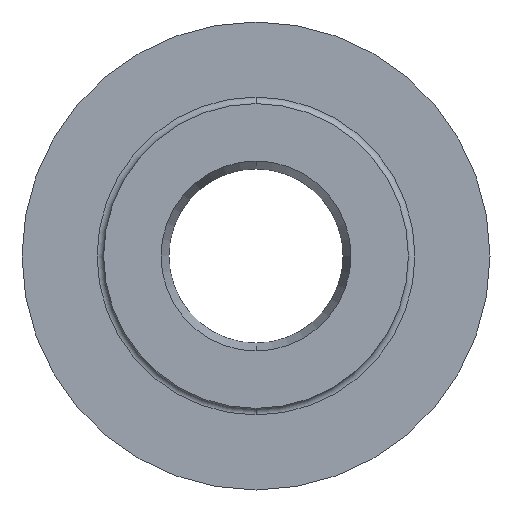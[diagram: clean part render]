
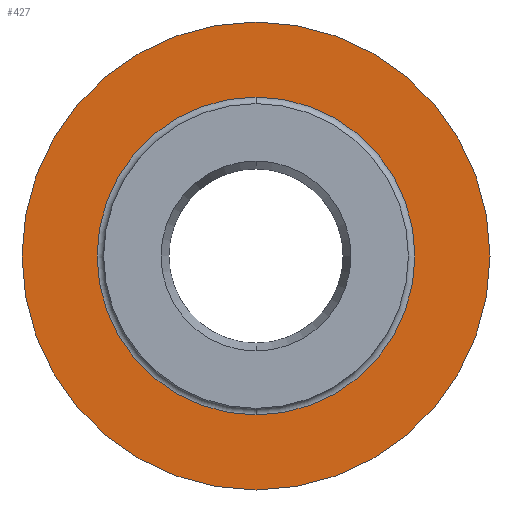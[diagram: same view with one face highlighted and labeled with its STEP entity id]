
A CAD part, front view. The second image highlights one B-rep face of the part: STEP entity #427.
In plain terms, the highlighted planar face has unit normal (0, -1, 0).
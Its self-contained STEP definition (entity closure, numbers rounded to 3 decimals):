
#18 = DIRECTION ( 'NONE',  ( 0., 0., -1. ) ) ;
#52 = CARTESIAN_POINT ( 'NONE',  ( 0., 3., -10.75 ) ) ;
#55 = CARTESIAN_POINT ( 'NONE',  ( 0., 3., -7.3 ) ) ;
#71 = AXIS2_PLACEMENT_3D ( 'NONE', #405, #457, #594 ) ;
#77 = DIRECTION ( 'NONE',  ( 0., 0., -1. ) ) ;
#107 = VERTEX_POINT ( 'NONE', #439 ) ;
#118 = DIRECTION ( 'NONE',  ( 0., -1., 0. ) ) ;
#128 = FACE_OUTER_BOUND ( 'NONE', #358, .T. ) ;
#131 = EDGE_CURVE ( 'NONE', #107, #328, #254, .T. ) ;
#139 = CARTESIAN_POINT ( 'NONE',  ( 0., 3., 0. ) ) ;
#146 = DIRECTION ( 'NONE',  ( 0., 0., -1. ) ) ;
#148 = EDGE_CURVE ( 'NONE', #328, #107, #393, .T. ) ;
#151 = ORIENTED_EDGE ( 'NONE', *, *, #203, .T. ) ;
#158 = ORIENTED_EDGE ( 'NONE', *, *, #148, .T. ) ;
#190 = CIRCLE ( 'NONE', #489, 10.75 ) ;
#203 = EDGE_CURVE ( 'NONE', #473, #245, #382, .T. ) ;
#245 = VERTEX_POINT ( 'NONE', #52 ) ;
#254 = CIRCLE ( 'NONE', #303, 7.3 ) ;
#271 = PLANE ( 'NONE',  #571 ) ;
#303 = AXIS2_PLACEMENT_3D ( 'NONE', #650, #610, #459 ) ;
#328 = VERTEX_POINT ( 'NONE', #55 ) ;
#334 = CARTESIAN_POINT ( 'NONE',  ( 0., 3., 0. ) ) ;
#337 = AXIS2_PLACEMENT_3D ( 'NONE', #139, #603, #146 ) ;
#358 = EDGE_LOOP ( 'NONE', ( #503, #151 ) ) ;
#382 = CIRCLE ( 'NONE', #71, 10.75 ) ;
#393 = CIRCLE ( 'NONE', #337, 7.3 ) ;
#405 = CARTESIAN_POINT ( 'NONE',  ( 0., 3., 0. ) ) ;
#411 = ORIENTED_EDGE ( 'NONE', *, *, #131, .T. ) ;
#427 = ADVANCED_FACE ( 'NONE', ( #525, #128 ), #271, .T. ) ;
#439 = CARTESIAN_POINT ( 'NONE',  ( 0., 3., 7.3 ) ) ;
#457 = DIRECTION ( 'NONE',  ( 0., -1., 0. ) ) ;
#459 = DIRECTION ( 'NONE',  ( 0., 0., -1. ) ) ;
#473 = VERTEX_POINT ( 'NONE', #566 ) ;
#482 = DIRECTION ( 'NONE',  ( 0., -1., 0. ) ) ;
#489 = AXIS2_PLACEMENT_3D ( 'NONE', #334, #482, #77 ) ;
#503 = ORIENTED_EDGE ( 'NONE', *, *, #543, .T. ) ;
#524 = CARTESIAN_POINT ( 'NONE',  ( 7., 3., 0. ) ) ;
#525 = FACE_BOUND ( 'NONE', #547, .T. ) ;
#543 = EDGE_CURVE ( 'NONE', #245, #473, #190, .T. ) ;
#547 = EDGE_LOOP ( 'NONE', ( #158, #411 ) ) ;
#566 = CARTESIAN_POINT ( 'NONE',  ( 0., 3., 10.75 ) ) ;
#571 = AXIS2_PLACEMENT_3D ( 'NONE', #524, #118, #18 ) ;
#594 = DIRECTION ( 'NONE',  ( 0., 0., -1. ) ) ;
#603 = DIRECTION ( 'NONE',  ( 0., 1., 0. ) ) ;
#610 = DIRECTION ( 'NONE',  ( 0., 1., 0. ) ) ;
#650 = CARTESIAN_POINT ( 'NONE',  ( 0., 3., 0. ) ) ;
